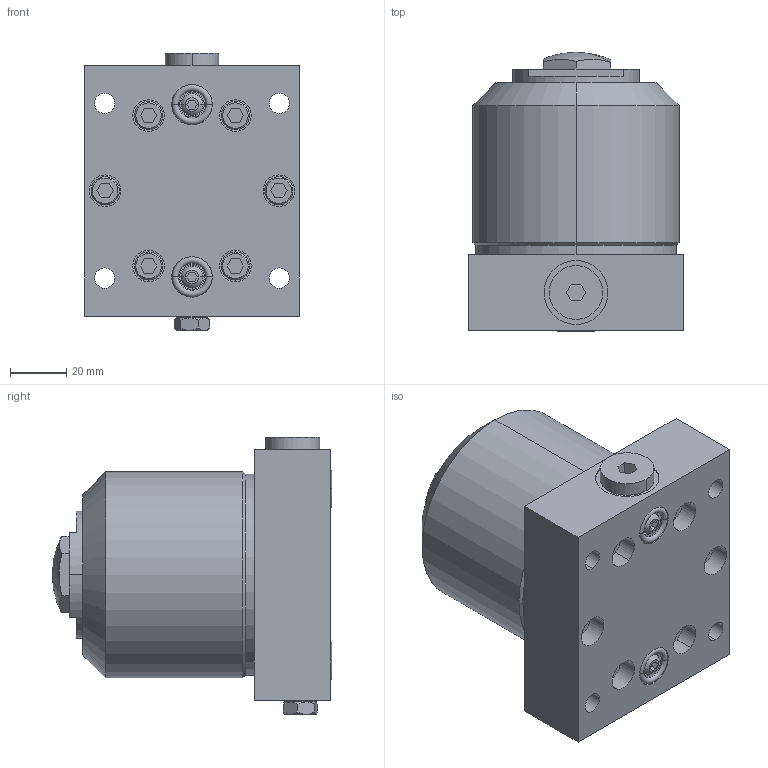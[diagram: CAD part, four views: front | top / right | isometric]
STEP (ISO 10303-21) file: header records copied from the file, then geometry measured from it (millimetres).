
FILE_DESCRIPTION((''),'2;1');
FILE_NAME('WFL-332_ASM','2012-12-18T',('chad.steele'),(''),'PRO/ENGINEER BY PARAMETRIC TECHNOLOGY CORPORATION, 2010040','PRO/ENGINEER BY PARAMETRIC TECHNOLOGY CORPORATION, 2010040','');
FILE_SCHEMA(('CONFIG_CONTROL_DESIGN'));
Length unit declared in the file: inch
Products named in the file (14): DC1106005; PA2116030; CCA621028-1A; B1110803; W22237; DA7309628; DC352118; CS235006; PA725020; PA709051; PA723749; DC984040; CZ89045; WFL-332_ASM
Assembly tree (21 placements, depth 2):
  WFL-332_ASM
    DC1106005
    PA2116030
    CCA621028-1A  x6
    B1110803  x2
    W22237  x2
    DA7309628  x2
    DC352118
    CS235006
    PA725020
    PA709051
    PA723749
    DC984040
    CZ89045
Bounding box: 76.2 x 99.09 x 98.25 mm (x, y, z)
Volume: 388562.2 mm3; surface area: 109151.5 mm2
Topology: 21 solids, 35 shells, 579 faces, 1334 edges, 844 vertices
Faces by surface type: cylinder 250, plane 193, cone 92, torus 38, sphere 6
Entity records: 14248 total; most frequent: CARTESIAN_POINT 2691, DIRECTION 2646, ORIENTED_EDGE 2079, AXIS2_PLACEMENT_3D 1120, EDGE_CURVE 1070, VERTEX_POINT 690, CIRCLE 612, EDGE_LOOP 598
